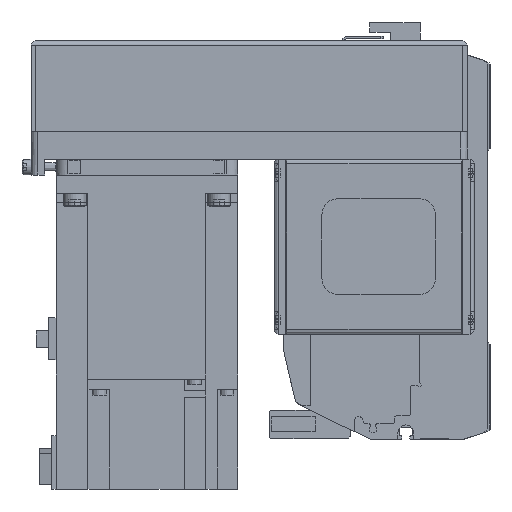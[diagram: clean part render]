
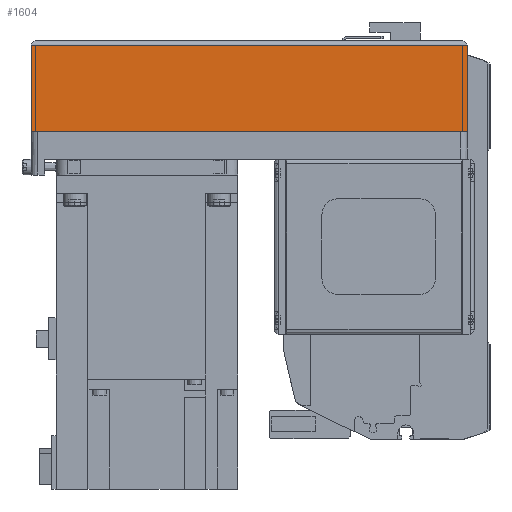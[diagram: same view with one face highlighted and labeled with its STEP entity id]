
A CAD part, left-side view. The second image highlights one B-rep face of the part: STEP entity #1604.
In plain terms, the highlighted planar face has unit normal (-1, 0, 0) as drawn and (0, 1, 0) by its records, which use the part's own axes.
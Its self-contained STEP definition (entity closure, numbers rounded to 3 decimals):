
#1604 = ADVANCED_FACE( '', ( #4125 ), #4126, .T. );
#4125 = FACE_OUTER_BOUND( '', #7929, .T. );
#4126 = PLANE( '', #7930 );
#7929 = EDGE_LOOP( '', ( #12576, #12577, #12578, #12579 ) );
#7930 = AXIS2_PLACEMENT_3D( '', #12580, #12581, #12582 );
#12576 = ORIENTED_EDGE( '', *, *, #22047, .F. );
#12577 = ORIENTED_EDGE( '', *, *, #22048, .F. );
#12578 = ORIENTED_EDGE( '', *, *, #22049, .T. );
#12579 = ORIENTED_EDGE( '', *, *, #22050, .T. );
#12580 = CARTESIAN_POINT( '', ( -192., 40., -50. ) );
#12581 = DIRECTION( '', ( 0., 1., 0. ) );
#12582 = DIRECTION( '', ( 0., 0., 1. ) );
#22047 = EDGE_CURVE( '', #26550, #26551, #26552, .T. );
#22048 = EDGE_CURVE( '', #26553, #26550, #26554, .T. );
#22049 = EDGE_CURVE( '', #26553, #26555, #26556, .T. );
#22050 = EDGE_CURVE( '', #26555, #26551, #26557, .T. );
#26550 = VERTEX_POINT( '', #33387 );
#26551 = VERTEX_POINT( '', #33388 );
#26552 = LINE( '', #33389, #33390 );
#26553 = VERTEX_POINT( '', #33391 );
#26554 = LINE( '', #33392, #33393 );
#26555 = VERTEX_POINT( '', #33394 );
#26556 = LINE( '', #33395, #33396 );
#26557 = LINE( '', #33397, #33398 );
#33387 = CARTESIAN_POINT( '', ( 0., 40., -50. ) );
#33388 = CARTESIAN_POINT( '', ( 0., 40., -12.1 ) );
#33389 = CARTESIAN_POINT( '', ( 0., 40., -50. ) );
#33390 = VECTOR( '', #40956, 1000. );
#33391 = CARTESIAN_POINT( '', ( -192., 40., -50. ) );
#33392 = CARTESIAN_POINT( '', ( -192., 40., -50. ) );
#33393 = VECTOR( '', #40957, 1000. );
#33394 = CARTESIAN_POINT( '', ( -192., 40., -12.1 ) );
#33395 = CARTESIAN_POINT( '', ( -192., 40., -50. ) );
#33396 = VECTOR( '', #40958, 1000. );
#33397 = CARTESIAN_POINT( '', ( -192., 40., -12.1 ) );
#33398 = VECTOR( '', #40959, 1000. );
#40956 = DIRECTION( '', ( 0., 0., 1. ) );
#40957 = DIRECTION( '', ( 1., 0., 0. ) );
#40958 = DIRECTION( '', ( 0., 0., 1. ) );
#40959 = DIRECTION( '', ( 1., 0., 0. ) );
